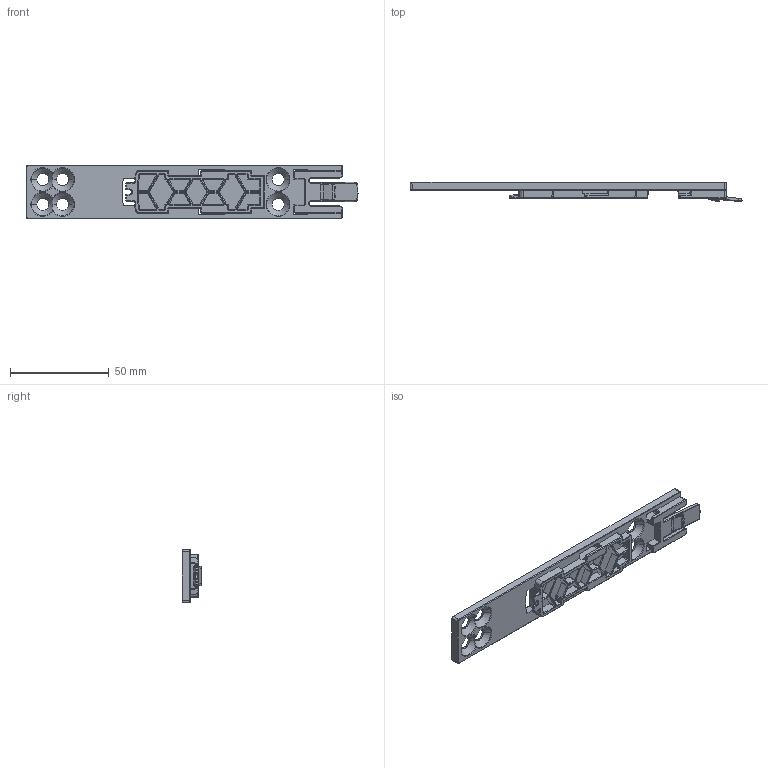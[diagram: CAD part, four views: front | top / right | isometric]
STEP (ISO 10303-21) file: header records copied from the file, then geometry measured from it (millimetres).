
FILE_DESCRIPTION((''),'2;1');
FILE_NAME('0835012_ASM','2020-03-18T13:07:55',('psj'),(''),'CREO PARAMETRIC BY PTC INC, 2019344','CREO PARAMETRIC BY PTC INC, 2019344','');
FILE_SCHEMA(('AUTOMOTIVE_DESIGN { 1 0 10303 214 1 1 1 1 }'));
Products named in the file (2): 0835012-BP; 0835012_ASM
Assembly tree (1 placements, depth 2):
  0835012_ASM
    0835012-BP
Bounding box: 167.92 x 9.69 x 27.3 mm (x, y, z)
Volume: 13420.3 mm3; surface area: 15149 mm2
Topology: 1 solids, 1 shells, 1453 faces, 3506 edges, 2090 vertices
Faces by surface type: cylinder 503, plane 345, bspline 331, cone 143, torus 115, sphere 16
Entity records: 58398 total; most frequent: CARTESIAN_POINT 26967, ORIENTED_EDGE 7012, DIRECTION 5884, EDGE_CURVE 3506, AXIS2_PLACEMENT_3D 2204, VERTEX_POINT 2090, EDGE_LOOP 1510, VECTOR 1476
